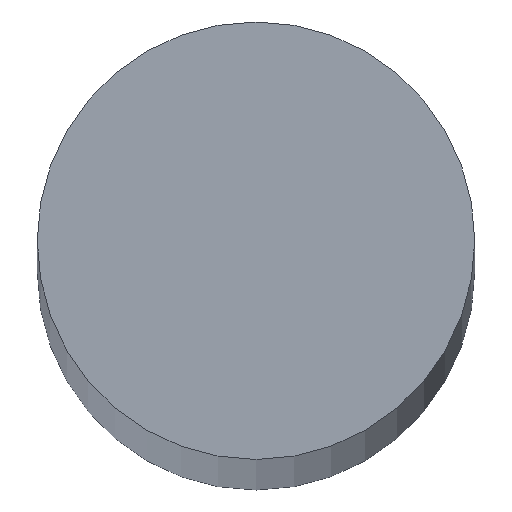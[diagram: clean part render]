
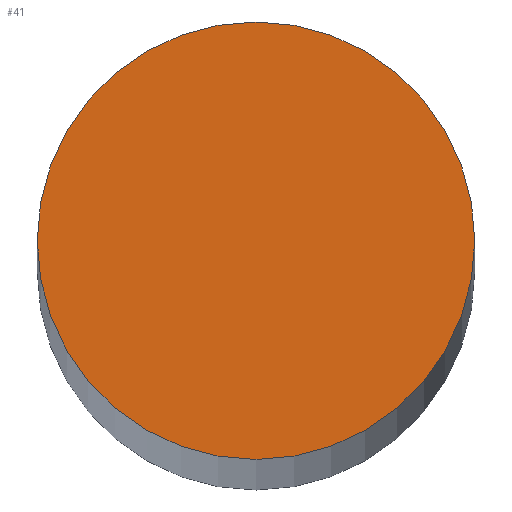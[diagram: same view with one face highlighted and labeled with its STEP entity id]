
A CAD part, top view. The second image highlights one B-rep face of the part: STEP entity #41.
In plain terms, the highlighted planar face has unit normal (0, 0, 1).
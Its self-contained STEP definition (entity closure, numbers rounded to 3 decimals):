
#16=PLANE('',#66);
#19=FACE_OUTER_BOUND('',#22,.T.);
#22=EDGE_LOOP('',(#37));
#25=CIRCLE('',#63,10.);
#27=VERTEX_POINT('',#82);
#29=EDGE_CURVE('',#27,#27,#25,.T.);
#37=ORIENTED_EDGE('',*,*,#29,.T.);
#41=ADVANCED_FACE('',(#19),#16,.T.);
#63=AXIS2_PLACEMENT_3D('',#83,#71,#72);
#66=AXIS2_PLACEMENT_3D('',#88,#78,#79);
#71=DIRECTION('center_axis',(0.,0.,1.));
#72=DIRECTION('ref_axis',(-1.,0.,0.));
#78=DIRECTION('center_axis',(0.,0.,1.));
#79=DIRECTION('ref_axis',(1.,0.,0.));
#82=CARTESIAN_POINT('',(10.,0.,800.));
#83=CARTESIAN_POINT('Origin',(0.,0.,800.));
#88=CARTESIAN_POINT('Origin',(0.,0.,800.));
